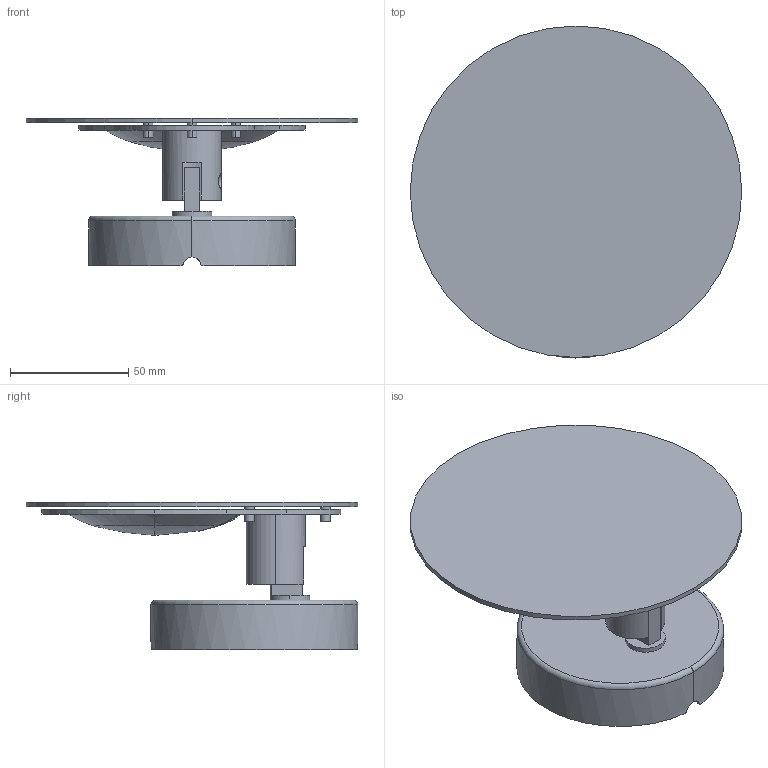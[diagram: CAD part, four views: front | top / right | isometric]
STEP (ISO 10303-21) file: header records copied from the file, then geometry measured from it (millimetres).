
FILE_DESCRIPTION((''),'2;1');
FILE_NAME('VOL_E_140_SW0001','2025-05-15T16:44:29',('elena.baldelli'),(''),'CREO PARAMETRIC BY PTC INC, 2020354','CREO PARAMETRIC BY PTC INC, 2020354','');
FILE_SCHEMA(('CONFIG_CONTROL_DESIGN'));
Length unit declared in the file: millimetre
Products named in the file (1): VOL_E_140_SW0001
Bounding box: 140 x 140.1 x 62.35 mm (x, y, z)
Surface area: 74398 mm2 (no closed solid volume)
Topology: 0 solids, 10 shells, 87 faces, 241 edges, 159 vertices
Faces by surface type: cylinder 35, plane 34, sphere 7, bspline 5, torus 4, cone 2
Entity records: 12946 total; most frequent: CARTESIAN_POINT 10755, DIRECTION 453, ORIENTED_EDGE 436, EDGE_CURVE 241, AXIS2_PLACEMENT_3D 186, VERTEX_POINT 159, CIRCLE 104, EDGE_LOOP 87
